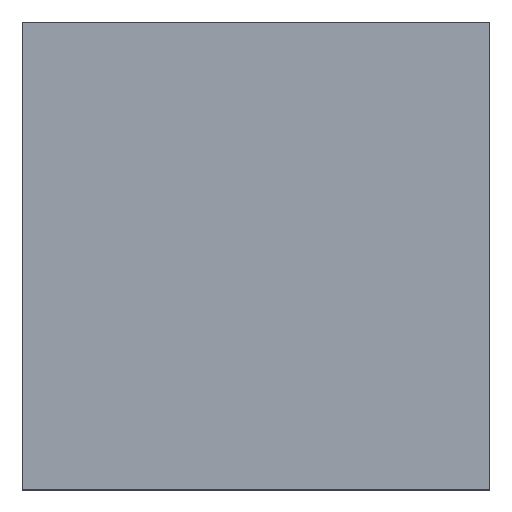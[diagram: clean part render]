
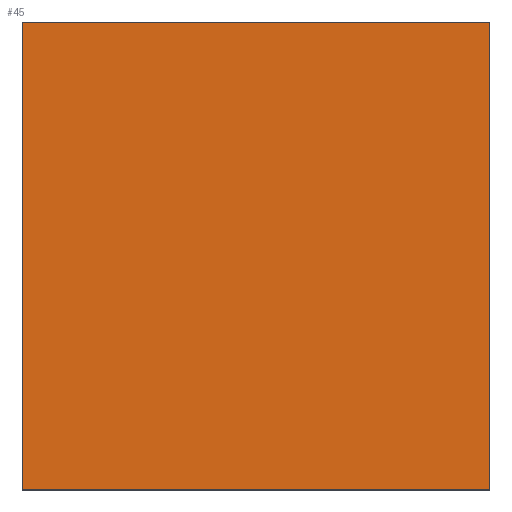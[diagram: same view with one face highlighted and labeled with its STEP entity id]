
A CAD part, top view. The second image highlights one B-rep face of the part: STEP entity #45.
In plain terms, the highlighted planar face has unit normal (0, 0, 1).
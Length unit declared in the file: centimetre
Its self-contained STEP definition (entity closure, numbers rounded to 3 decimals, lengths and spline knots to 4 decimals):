
#7 = DIRECTION ( 'NONE',  ( 0., 0., 1. ) ) ;
#9 = DIRECTION ( 'NONE',  ( 1., 0., 0. ) ) ;
#18 = DIRECTION ( 'NONE',  ( 1., 0., 0. ) ) ;
#33 = EDGE_LOOP ( 'NONE', ( #484, #113, #471, #123 ) ) ;
#45 = ADVANCED_FACE ( 'NONE', ( #47 ), #159, .T. ) ;
#47 = FACE_OUTER_BOUND ( 'NONE', #33, .T. ) ;
#48 = EDGE_CURVE ( 'NONE', #427, #448, #319, .T. ) ;
#60 = VERTEX_POINT ( 'NONE', #401 ) ;
#87 = LINE ( 'NONE', #247, #180 ) ;
#101 = EDGE_CURVE ( 'NONE', #371, #427, #145, .T. ) ;
#113 = ORIENTED_EDGE ( 'NONE', *, *, #101, .T. ) ;
#123 = ORIENTED_EDGE ( 'NONE', *, *, #341, .T. ) ;
#141 = VECTOR ( 'NONE', #18, 100. ) ;
#145 = LINE ( 'NONE', #352, #141 ) ;
#159 = PLANE ( 'NONE',  #231 ) ;
#163 = LINE ( 'NONE', #482, #211 ) ;
#180 = VECTOR ( 'NONE', #337, 100. ) ;
#211 = VECTOR ( 'NONE', #459, 100. ) ;
#231 = AXIS2_PLACEMENT_3D ( 'NONE', #239, #7, #9 ) ;
#239 = CARTESIAN_POINT ( 'NONE',  ( 0., 0., 1000. ) ) ;
#247 = CARTESIAN_POINT ( 'NONE',  ( 0., 1000., 1000. ) ) ;
#295 = CARTESIAN_POINT ( 'NONE',  ( 0., 0., 1000. ) ) ;
#297 = VECTOR ( 'NONE', #479, 100. ) ;
#319 = LINE ( 'NONE', #327, #297 ) ;
#327 = CARTESIAN_POINT ( 'NONE',  ( 1000., 1000., 1000. ) ) ;
#337 = DIRECTION ( 'NONE',  ( 0., -1., 0. ) ) ;
#341 = EDGE_CURVE ( 'NONE', #448, #60, #163, .T. ) ;
#352 = CARTESIAN_POINT ( 'NONE',  ( 0., 0., 1000. ) ) ;
#371 = VERTEX_POINT ( 'NONE', #295 ) ;
#372 = EDGE_CURVE ( 'NONE', #60, #371, #87, .T. ) ;
#401 = CARTESIAN_POINT ( 'NONE',  ( 0., 1000., 1000. ) ) ;
#427 = VERTEX_POINT ( 'NONE', #499 ) ;
#448 = VERTEX_POINT ( 'NONE', #473 ) ;
#459 = DIRECTION ( 'NONE',  ( -1., 0., 0. ) ) ;
#471 = ORIENTED_EDGE ( 'NONE', *, *, #48, .T. ) ;
#473 = CARTESIAN_POINT ( 'NONE',  ( 1000., 1000., 1000. ) ) ;
#479 = DIRECTION ( 'NONE',  ( 0., 1., 0. ) ) ;
#482 = CARTESIAN_POINT ( 'NONE',  ( 0., 1000., 1000. ) ) ;
#484 = ORIENTED_EDGE ( 'NONE', *, *, #372, .T. ) ;
#499 = CARTESIAN_POINT ( 'NONE',  ( 1000., 0., 1000. ) ) ;
